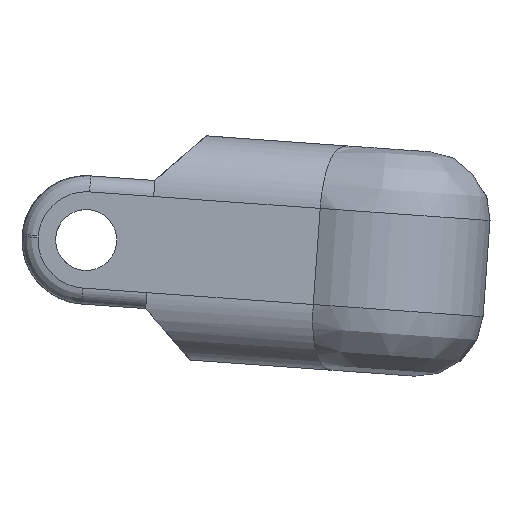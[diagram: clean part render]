
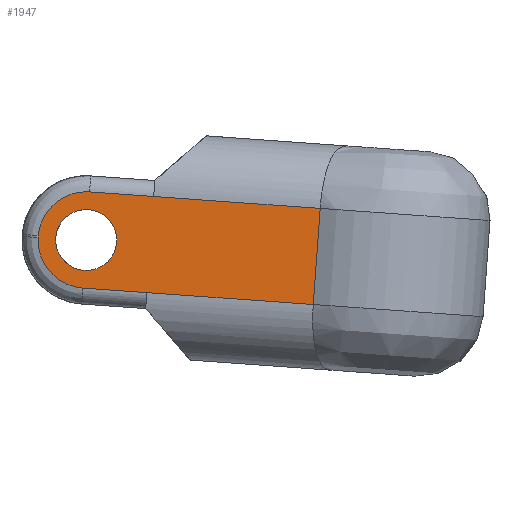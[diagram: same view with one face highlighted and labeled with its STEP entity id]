
A CAD part, left-side view. The second image highlights one B-rep face of the part: STEP entity #1947.
In plain terms, the highlighted planar face has unit normal (-1, 0, 0).
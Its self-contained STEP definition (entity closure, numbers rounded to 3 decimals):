
#46=FACE_BOUND('',#263,.T.);
#56=PLANE('',#2111);
#132=FACE_OUTER_BOUND('',#262,.T.);
#262=EDGE_LOOP('',(#1356,#1357,#1358,#1359,#1360,#1361,#1362,#1363));
#263=EDGE_LOOP('',(#1364));
#440=CIRCLE('',#2112,1.5);
#441=CIRCLE('',#2113,1.5);
#442=CIRCLE('',#2114,0.95);
#512=LINE('',#2997,#681);
#521=LINE('',#3024,#690);
#522=LINE('',#3028,#691);
#523=LINE('',#3032,#692);
#524=LINE('',#3036,#693);
#525=LINE('',#3037,#694);
#681=VECTOR('',#2325,10.);
#690=VECTOR('',#2352,10.);
#691=VECTOR('',#2357,10.);
#692=VECTOR('',#2360,10.);
#693=VECTOR('',#2363,10.);
#694=VECTOR('',#2364,10.);
#855=VERTEX_POINT('',#2970);
#860=VERTEX_POINT('',#2995);
#869=VERTEX_POINT('',#3023);
#870=VERTEX_POINT('',#3027);
#871=VERTEX_POINT('',#3029);
#872=VERTEX_POINT('',#3031);
#873=VERTEX_POINT('',#3033);
#874=VERTEX_POINT('',#3035);
#875=VERTEX_POINT('',#3038);
#1038=EDGE_CURVE('',#860,#855,#512,.T.);
#1051=EDGE_CURVE('',#869,#855,#521,.T.);
#1053=EDGE_CURVE('',#870,#860,#522,.T.);
#1054=EDGE_CURVE('',#871,#870,#440,.T.);
#1055=EDGE_CURVE('',#872,#871,#523,.T.);
#1056=EDGE_CURVE('',#873,#872,#441,.T.);
#1057=EDGE_CURVE('',#874,#873,#524,.T.);
#1058=EDGE_CURVE('',#869,#874,#525,.T.);
#1059=EDGE_CURVE('',#875,#875,#442,.T.);
#1356=ORIENTED_EDGE('',*,*,#1038,.F.);
#1357=ORIENTED_EDGE('',*,*,#1053,.F.);
#1358=ORIENTED_EDGE('',*,*,#1054,.F.);
#1359=ORIENTED_EDGE('',*,*,#1055,.F.);
#1360=ORIENTED_EDGE('',*,*,#1056,.F.);
#1361=ORIENTED_EDGE('',*,*,#1057,.F.);
#1362=ORIENTED_EDGE('',*,*,#1058,.F.);
#1363=ORIENTED_EDGE('',*,*,#1051,.T.);
#1364=ORIENTED_EDGE('',*,*,#1059,.T.);
#1947=ADVANCED_FACE('',(#132,#46),#56,.T.);
#2111=AXIS2_PLACEMENT_3D('',#3026,#2355,#2356);
#2112=AXIS2_PLACEMENT_3D('',#3030,#2358,#2359);
#2113=AXIS2_PLACEMENT_3D('',#3034,#2361,#2362);
#2114=AXIS2_PLACEMENT_3D('',#3039,#2365,#2366);
#2325=DIRECTION('',(0.,-1.,0.));
#2352=DIRECTION('',(0.,0.,1.));
#2355=DIRECTION('center_axis',(-1.,0.,0.));
#2356=DIRECTION('ref_axis',(0.,-1.,0.));
#2357=DIRECTION('',(0.,-1.,0.));
#2358=DIRECTION('center_axis',(1.,0.,0.));
#2359=DIRECTION('ref_axis',(0.,1.,0.));
#2360=DIRECTION('',(0.,0.,1.));
#2361=DIRECTION('center_axis',(1.,0.,0.));
#2362=DIRECTION('ref_axis',(0.,1.,0.));
#2363=DIRECTION('',(0.,1.,0.));
#2364=DIRECTION('',(0.,1.,0.));
#2365=DIRECTION('center_axis',(1.,0.,0.));
#2366=DIRECTION('ref_axis',(0.,1.,0.));
#2970=CARTESIAN_POINT('',(-27.969,-5.284,1.5));
#2995=CARTESIAN_POINT('',(-27.969,-0.087,1.5));
#2997=CARTESIAN_POINT('',(-27.969,0.287,1.5));
#3023=CARTESIAN_POINT('',(-27.969,-5.284,-1.5));
#3024=CARTESIAN_POINT('',(-27.969,-5.284,0.));
#3026=CARTESIAN_POINT('Origin',(-27.969,3.912,0.));
#3027=CARTESIAN_POINT('',(-27.969,1.913,1.5));
#3028=CARTESIAN_POINT('',(-27.969,2.912,1.5));
#3029=CARTESIAN_POINT('',(-27.969,3.412,0.028));
#3030=CARTESIAN_POINT('Origin',(-27.969,1.913,0.));
#3031=CARTESIAN_POINT('',(-27.969,3.412,-0.028));
#3032=CARTESIAN_POINT('',(-27.969,3.412,0.));
#3033=CARTESIAN_POINT('',(-27.969,1.913,-1.5));
#3034=CARTESIAN_POINT('Origin',(-27.969,1.913,0.));
#3035=CARTESIAN_POINT('',(-27.969,-0.087,-1.5));
#3036=CARTESIAN_POINT('',(-27.969,1.912,-1.5));
#3037=CARTESIAN_POINT('',(-27.969,0.287,-1.5));
#3038=CARTESIAN_POINT('',(-27.969,0.963,0.));
#3039=CARTESIAN_POINT('Origin',(-27.969,1.913,0.));
